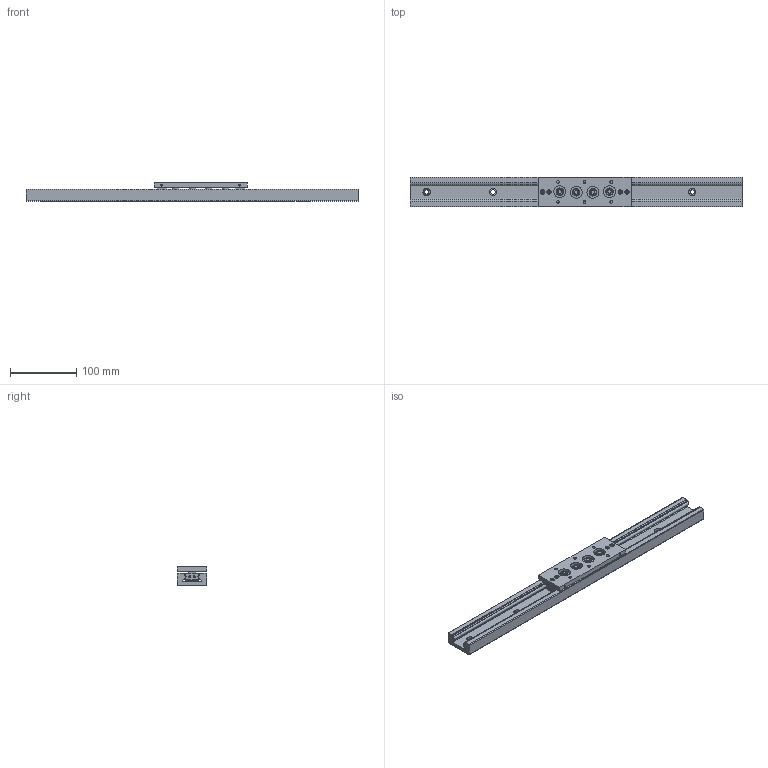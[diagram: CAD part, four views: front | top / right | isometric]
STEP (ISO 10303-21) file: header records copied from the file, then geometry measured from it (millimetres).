
FILE_DESCRIPTION((''),'2;1');
FILE_NAME('C:\Documents and Settings\土屋\My Documents\土屋移動用フォルダ\製品 (図面3D用)\お客様用\LSIJ4528.stp','2019-12-25T11:32:57',('y'),(''),'Autodesk Inventor 11','Autodesk Inventor 11','');
FILE_SCHEMA(('AUTOMOTIVE_DESIGN { 1 0 10303 214 1 1 1 1 }'));
Length unit declared in the file: millimetre
Products named in the file (3): LSIJ4528; LSI4528レール; LSIJ4528キャリッジ(1)
Assembly tree (2 placements, depth 2):
  LSIJ4528
    LSI4528レール
    LSIJ4528キャリッジ(1)
Bounding box: 500 x 45 x 28 mm (x, y, z)
Volume: 325888.7 mm3; surface area: 109652.8 mm2
Topology: 8 solids, 8 shells, 516 faces, 1260 edges, 821 vertices
Faces by surface type: plane 261, bspline 129, cylinder 66, cone 56, torus 4
Full cylindrical faces by diameter (mm): 3 x2, 5.5 x2, 6 x4, 6.5 x2, 10.6 x8, 11 x4, 18 x4, 20 x8
Entity records: 15301 total; most frequent: CARTESIAN_POINT 4147, ORIENTED_EDGE 2306, DIRECTION 2041, EDGE_CURVE 1153, VERTEX_POINT 798, VECTOR 761, LINE 761, EDGE_LOOP 683
